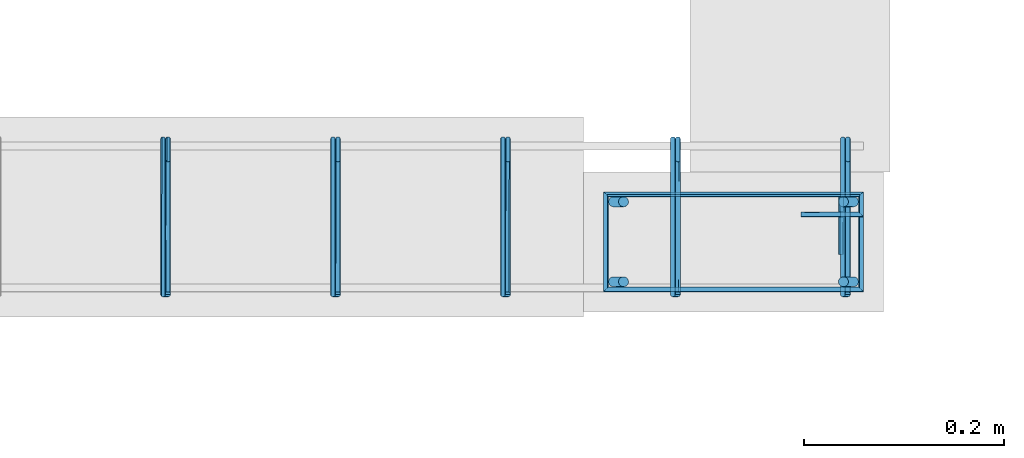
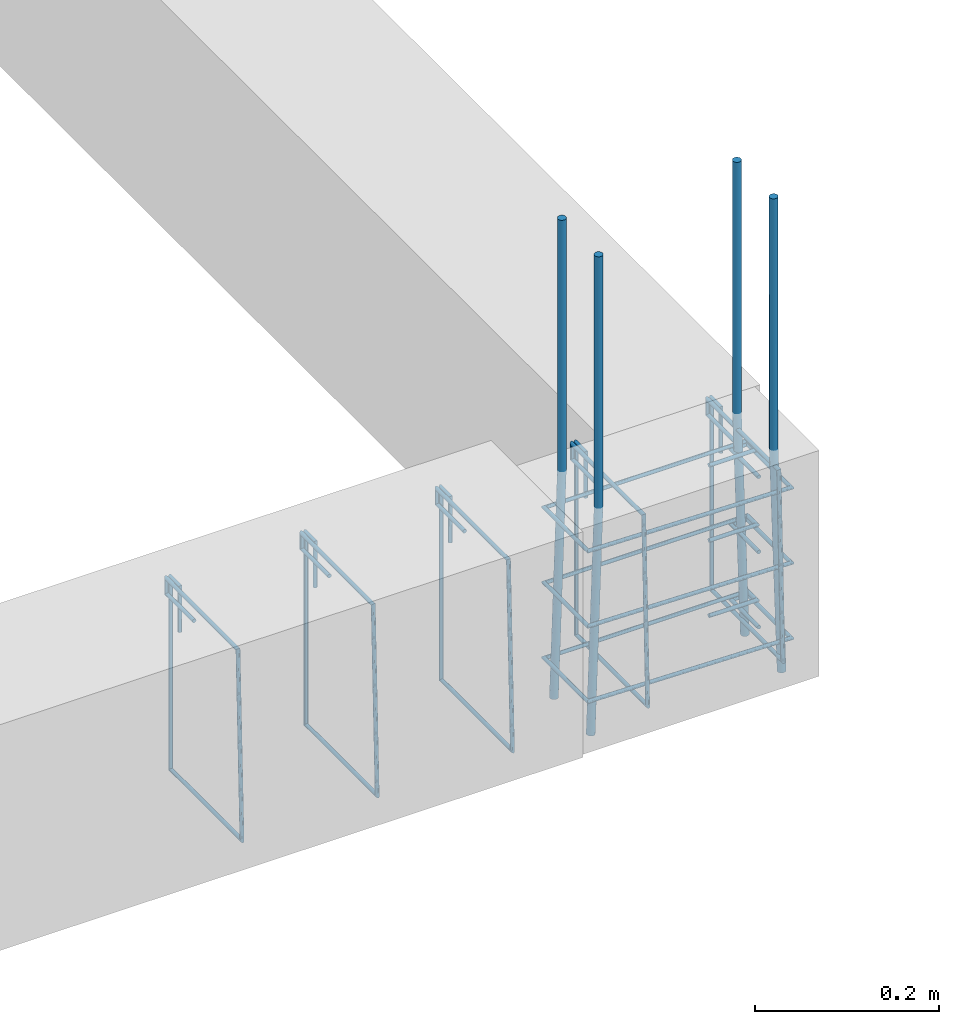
# One storey, part 24 of 150: 12 reinforcing bars.
"""IFC4 building model written with IfcOpenShell, lengths in centimetres."""

from ifc_helpers import new_model, entity, si_unit, derived_unit, frame, origin_with_axes, place, context, project, spatial, source, transform, mapped, element, save


model = new_model("IFC4")

# Units and contexts
model_context = context("Model", 3, precision=1e-05, world=origin_with_axes(), identifier="Body")
ifc_project = project(units=[si_unit("LENGTHUNIT", "METRE", prefix="CENTI"), si_unit("VOLUMEUNIT", "CUBIC_METRE"), si_unit("AREAUNIT", "SQUARE_METRE"), si_unit("POWERUNIT", "WATT"), si_unit("LUMINOUSFLUXUNIT", "LUMEN"), si_unit("ELECTRICCURRENTUNIT", "AMPERE"), si_unit("PRESSUREUNIT", "PASCAL", prefix="KILO"), si_unit("MASSUNIT", "GRAM", prefix="KILO"), si_unit("PLANEANGLEUNIT", "RADIAN"), derived_unit("VOLUMETRICFLOWRATEUNIT", [(si_unit("LENGTHUNIT", "METRE"), 3), (si_unit("TIMEUNIT", "SECOND"), -1)])], contexts=[model_context])

# Site, building, storey
site_placement = place(None, frame((-4000.0, 0.0, 0.0), z_axis=(0.0, 0.0, 1.0), x_axis=(1.0, 0.0, 0.0)))
site = spatial("IfcSite", under=ifc_project, at=site_placement, Name="PADRÃO")
building_placement = place(site_placement, frame((0.0, 0.0, -14.0)))
building = spatial("IfcBuilding", under=site, at=building_placement, Name="CRECHE PRÉ-ESCOLA TIPO 2")
placement = place(building_placement, origin_with_axes())
storey_placement = place(placement, frame((0.0, 0.0, 30.0), z_axis=(0.0, 0.0, 1.0), x_axis=(1.0, 0.0, 0.0)))
storey = spatial("IfcBuildingStorey", under=building, at=storey_placement, Name="VIGA BALDRAME", CompositionType="ELEMENT", Elevation=16.0)

# Reinforcing bars
shared_shape_1 = source(origin_with_axes(), model_context, "Body", "AdvancedSweptSolid", [
    entity("IfcSweptDiskSolid", entity("IfcCompositeCurve", [entity("IfcCompositeCurveSegment", "CONTINUOUS", True, entity("IfcPolyline", [entity("IfcCartesianPoint", [4.25, 21.75, 0.0]), entity("IfcCartesianPoint", [4.25, 27.75, 0.0])])), entity("IfcCompositeCurveSegment", "CONTINUOUS", True, entity("IfcPolyline", [entity("IfcCartesianPoint", [4.25, 27.75, 0.0]), entity("IfcCartesianPoint", [2.25, 27.75, 0.0])])), entity("IfcCompositeCurveSegment", "CONTINUOUS", True, entity("IfcPolyline", [entity("IfcCartesianPoint", [2.25, 27.75, 0.0]), entity("IfcCartesianPoint", [2.25, 2.25, 0.0])])), entity("IfcCompositeCurveSegment", "CONTINUOUS", True, entity("IfcPolyline", [entity("IfcCartesianPoint", [2.25, 2.25, 0.0]), entity("IfcCartesianPoint", [11.75, 2.25, 0.0])])), entity("IfcCompositeCurveSegment", "CONTINUOUS", True, entity("IfcPolyline", [entity("IfcCartesianPoint", [11.75, 2.25, 0.0]), entity("IfcCartesianPoint", [11.75, 27.75, -0.5])])), entity("IfcCompositeCurveSegment", "CONTINUOUS", True, entity("IfcPolyline", [entity("IfcCartesianPoint", [11.75, 27.75, -0.5]), entity("IfcCartesianPoint", [2.25, 27.75, -0.5])])), entity("IfcCompositeCurveSegment", "CONTINUOUS", True, entity("IfcPolyline", [entity("IfcCartesianPoint", [2.25, 27.75, -0.5]), entity("IfcCartesianPoint", [2.25, 25.75, -0.5])])), entity("IfcCompositeCurveSegment", "CONTINUOUS", True, entity("IfcPolyline", [entity("IfcCartesianPoint", [2.25, 25.75, -0.5]), entity("IfcCartesianPoint", [8.25, 25.75, -0.5])]))], False), 0.25),
])
for number, where, z_axis, x_axis, name in (
    (1, (1361.84, 522.01, -25.0), (0.0, 0.0, 1.0), (0.0, -1.0, 0.0), "P138 - Estribo"),
    (2, (1361.84, 522.01, -5.0), (0.0, 0.0, 1.0), (0.0, -1.0, 0.0), "P138 - Estribo"),
    (3, (1361.84, 522.01, -15.0), (0.0, 0.0, 1.0), (0.0, -1.0, 0.0), "P138 - Estribo"),
):
    element("IfcReinforcingBar", number, at=place(storey_placement, frame(where, z_axis=z_axis, x_axis=x_axis)), inside=storey, Name=name, BarLength=0.0, CrossSectionArea=1.9634954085e-05, NominalDiameter=0.5, PredefinedType="MAIN", context=model_context, shape_type="MappedRepresentation", body=[
        mapped(shared_shape_1, transform((0.0, 0.0, 0.0), scale=1.0)),
    ])
shared_shape_2 = source(origin_with_axes(), model_context, "Body", "AdvancedSweptSolid", [
    entity("IfcSweptDiskSolid", entity("IfcCompositeCurve", [entity("IfcCompositeCurveSegment", "CONTINUOUS", True, entity("IfcPolyline", [entity("IfcCartesianPoint", [2.0, -6.0, 0.0]), entity("IfcCartesianPoint", [2.0, 0.0, 0.0])])), entity("IfcCompositeCurveSegment", "CONTINUOUS", True, entity("IfcPolyline", [entity("IfcCartesianPoint", [2.0, 0.0, 0.0]), entity("IfcCartesianPoint", [0.0, 0.0, 0.0])])), entity("IfcCompositeCurveSegment", "CONTINUOUS", True, entity("IfcPolyline", [entity("IfcCartesianPoint", [0.0, 0.0, 0.0]), entity("IfcCartesianPoint", [0.0, -25.5, 0.0])])), entity("IfcCompositeCurveSegment", "CONTINUOUS", True, entity("IfcPolyline", [entity("IfcCartesianPoint", [0.0, -25.5, 0.0]), entity("IfcCartesianPoint", [15.5, -25.5, 0.0])])), entity("IfcCompositeCurveSegment", "CONTINUOUS", True, entity("IfcPolyline", [entity("IfcCartesianPoint", [15.5, -25.5, 0.0]), entity("IfcCartesianPoint", [15.5, 0.0, 0.5])])), entity("IfcCompositeCurveSegment", "CONTINUOUS", True, entity("IfcPolyline", [entity("IfcCartesianPoint", [15.5, 0.0, 0.5]), entity("IfcCartesianPoint", [0.0, 0.0, 0.5])])), entity("IfcCompositeCurveSegment", "CONTINUOUS", True, entity("IfcPolyline", [entity("IfcCartesianPoint", [0.0, 0.0, 0.5]), entity("IfcCartesianPoint", [0.0, -2.0, 0.5])])), entity("IfcCompositeCurveSegment", "CONTINUOUS", True, entity("IfcPolyline", [entity("IfcCartesianPoint", [0.0, -2.0, 0.5]), entity("IfcCartesianPoint", [6.0, -2.0, 0.5])]))], False), 0.25),
])
for number, where, z_axis, x_axis, name in (
    (4, (1320.28, 525.26, -2.25), (-1.0, 0.0, 0.0), (0.0, -1.0, 0.0), "V150 - Estribo"),
    (5, (1337.28, 525.26, -2.25), (-1.0, 0.0, 0.0), (0.0, -1.0, 0.0), "V150 - Estribo"),
    (6, (1354.28, 525.26, -2.25), (-1.0, 0.0, 0.0), (0.0, -1.0, 0.0), "V150 - Estribo"),
    (7, (1371.28, 525.26, -2.25), (-1.0, 0.0, 0.0), (0.0, -1.0, 0.0), "V150 - Estribo"),
    (8, (1388.28, 525.26, -2.25), (-1.0, 0.0, 0.0), (0.0, -1.0, 0.0), "V150 - Estribo"),
):
    element("IfcReinforcingBar", number, at=place(storey_placement, frame(where, z_axis=z_axis, x_axis=x_axis)), inside=storey, Name=name, BarLength=0.0, CrossSectionArea=1.9634954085e-05, NominalDiameter=0.5, PredefinedType="MAIN", context=model_context, shape_type="MappedRepresentation", body=[
        mapped(shared_shape_2, transform((0.0, 0.0, 0.0), scale=1.0)),
    ])
for number, where, z_axis, x_axis, name in (
    (9, (1365.34013877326, 511.01, 33.3573001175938), (0.0, 0.0, 1.0), (1.0, 0.0, 0.0), "P138 - Longitudinal"),
    (10, (1365.34013877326, 519.01, 33.3573001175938), (0.0, 0.0, 1.0), (1.0, 0.0, 0.0), "P138 - Longitudinal"),
):
    element("IfcReinforcingBar", number, at=place(storey_placement, frame(where, z_axis=z_axis, x_axis=x_axis)), inside=storey, Name=name, BarLength=0.0, CrossSectionArea=7.853981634e-05, NominalDiameter=1.0, PredefinedType="MAIN", context=model_context, shape_type="AdvancedSweptSolid", body=[
        entity("IfcSweptDiskSolid", entity("IfcCompositeCurve", [entity("IfcCompositeCurveSegment", "CONTINUOUS", True, entity("IfcPolyline", [entity("IfcCartesianPoint", [-0.50013877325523, 0.0, -63.3573001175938]), entity("IfcCartesianPoint", [0.49986122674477, 0.0, -33.3573001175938])])), entity("IfcCompositeCurveSegment", "CONTINUOUS", True, entity("IfcPolyline", [entity("IfcCartesianPoint", [0.49986122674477, 0.0, -33.3573001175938]), entity("IfcCartesianPoint", [0.49986122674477, 0.0, 0.0])]))], False), 0.5),
    ])
for number, where, z_axis, x_axis, name in (
    (11, (1388.33986122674, 519.01, 33.3573001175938), (0.0, 0.0, 1.0), (1.0, 0.0, 0.0), "P138 - Longitudinal"),
    (12, (1388.33986122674, 511.01, 33.3573001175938), (0.0, 0.0, 1.0), (1.0, 0.0, 0.0), "P138 - Longitudinal"),
):
    element("IfcReinforcingBar", number, at=place(storey_placement, frame(where, z_axis=z_axis, x_axis=x_axis)), inside=storey, Name=name, BarLength=0.0, CrossSectionArea=7.853981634e-05, NominalDiameter=1.0, PredefinedType="MAIN", context=model_context, shape_type="AdvancedSweptSolid", body=[
        entity("IfcSweptDiskSolid", entity("IfcCompositeCurve", [entity("IfcCompositeCurveSegment", "CONTINUOUS", True, entity("IfcPolyline", [entity("IfcCartesianPoint", [0.50013877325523, 0.0, -63.3573001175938]), entity("IfcCartesianPoint", [-0.49986122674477, 0.0, -33.3573001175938])])), entity("IfcCompositeCurveSegment", "CONTINUOUS", True, entity("IfcPolyline", [entity("IfcCartesianPoint", [-0.49986122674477, 0.0, -33.3573001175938]), entity("IfcCartesianPoint", [-0.49986122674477, 0.0, 0.0])]))], False), 0.5),
    ])

save(model, "model.ifc")
